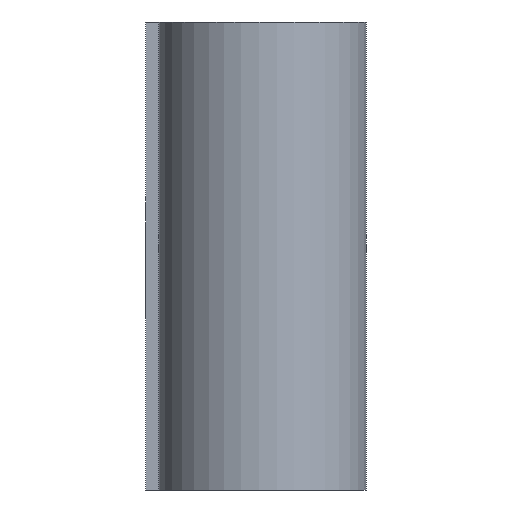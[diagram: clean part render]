
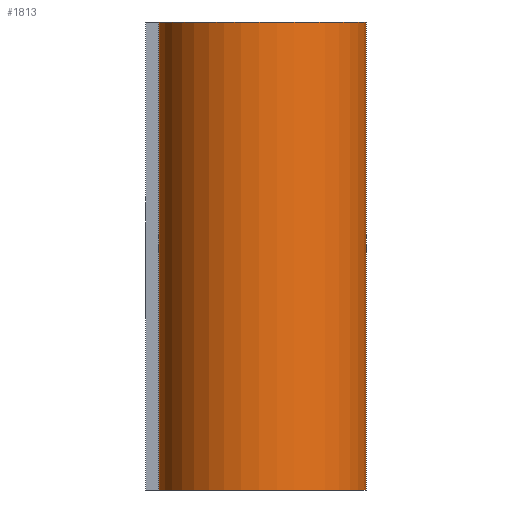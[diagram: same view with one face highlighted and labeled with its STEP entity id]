
A CAD part, left-side view. The second image highlights one B-rep face of the part: STEP entity #1813.
In plain terms, the highlighted cylindrical face has radius 8 mm (diameter 16 mm), a partial arc.
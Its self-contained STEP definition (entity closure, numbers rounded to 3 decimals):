
#36 = EDGE_CURVE ( 'NONE', #1474, #1589, #196, .T. ) ;
#116 = ORIENTED_EDGE ( 'NONE', *, *, #36, .T. ) ;
#157 = CARTESIAN_POINT ( 'NONE',  ( 0., 8., 0. ) ) ;
#196 = LINE ( 'NONE', #1231, #1022 ) ;
#204 = DIRECTION ( 'NONE',  ( 0., 0., 1. ) ) ;
#303 = DIRECTION ( 'NONE',  ( 0., 0., 1. ) ) ;
#340 = ORIENTED_EDGE ( 'NONE', *, *, #862, .T. ) ;
#351 = CARTESIAN_POINT ( 'NONE',  ( 4.6, -6.545, -36. ) ) ;
#544 = ORIENTED_EDGE ( 'NONE', *, *, #1277, .T. ) ;
#554 = AXIS2_PLACEMENT_3D ( 'NONE', #834, #1567, #1448 ) ;
#562 = CARTESIAN_POINT ( 'NONE',  ( 0., 0., -36. ) ) ;
#617 = EDGE_LOOP ( 'NONE', ( #544, #340, #1650, #116 ) ) ;
#655 = AXIS2_PLACEMENT_3D ( 'NONE', #1501, #303, #756 ) ;
#680 = CARTESIAN_POINT ( 'NONE',  ( 0., 8., -36. ) ) ;
#732 = CARTESIAN_POINT ( 'NONE',  ( 4.6, -6.545, -36. ) ) ;
#756 = DIRECTION ( 'NONE',  ( 1., 0., 0. ) ) ;
#834 = CARTESIAN_POINT ( 'NONE',  ( 0., 0., 0. ) ) ;
#838 = VECTOR ( 'NONE', #204, 1000. ) ;
#862 = EDGE_CURVE ( 'NONE', #1023, #1646, #1690, .T. ) ;
#982 = EDGE_CURVE ( 'NONE', #1474, #1646, #1054, .T. ) ;
#1022 = VECTOR ( 'NONE', #1523, 1000. ) ;
#1023 = VERTEX_POINT ( 'NONE', #732 ) ;
#1054 = CIRCLE ( 'NONE', #554, 8. ) ;
#1146 = AXIS2_PLACEMENT_3D ( 'NONE', #562, #1761, #1329 ) ;
#1231 = CARTESIAN_POINT ( 'NONE',  ( 0., 8., -36. ) ) ;
#1277 = EDGE_CURVE ( 'NONE', #1589, #1023, #1331, .T. ) ;
#1329 = DIRECTION ( 'NONE',  ( 1., 0., 0. ) ) ;
#1331 = CIRCLE ( 'NONE', #1146, 8. ) ;
#1338 = CYLINDRICAL_SURFACE ( 'NONE', #655, 8. ) ;
#1448 = DIRECTION ( 'NONE',  ( 1., 0., 0. ) ) ;
#1474 = VERTEX_POINT ( 'NONE', #157 ) ;
#1479 = FACE_OUTER_BOUND ( 'NONE', #617, .T. ) ;
#1501 = CARTESIAN_POINT ( 'NONE',  ( 0., 0., -36. ) ) ;
#1523 = DIRECTION ( 'NONE',  ( 0., 0., -1. ) ) ;
#1567 = DIRECTION ( 'NONE',  ( 0., 0., 1. ) ) ;
#1589 = VERTEX_POINT ( 'NONE', #680 ) ;
#1646 = VERTEX_POINT ( 'NONE', #1721 ) ;
#1650 = ORIENTED_EDGE ( 'NONE', *, *, #982, .F. ) ;
#1690 = LINE ( 'NONE', #351, #838 ) ;
#1721 = CARTESIAN_POINT ( 'NONE',  ( 4.6, -6.545, 0. ) ) ;
#1761 = DIRECTION ( 'NONE',  ( 0., 0., 1. ) ) ;
#1813 = ADVANCED_FACE ( 'NONE', ( #1479 ), #1338, .T. ) ;
